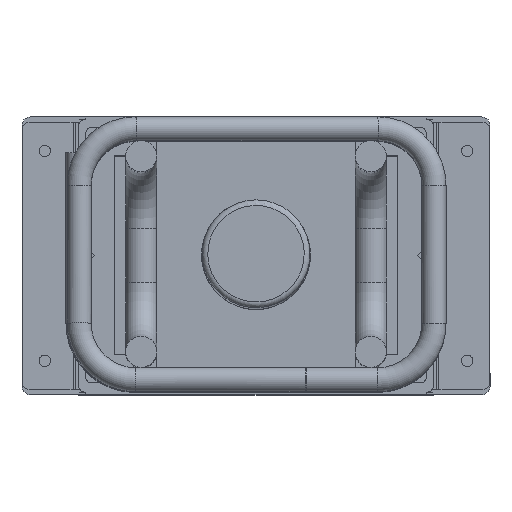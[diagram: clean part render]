
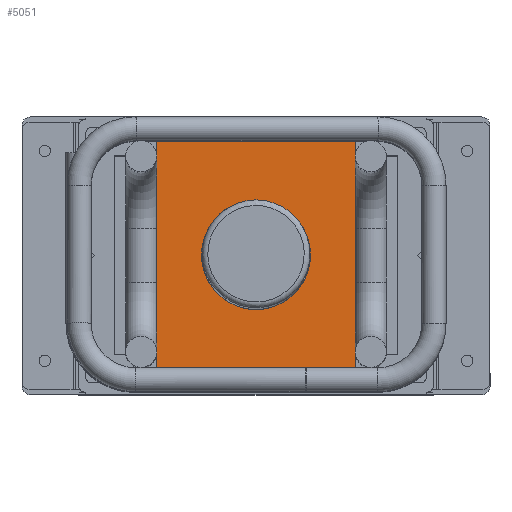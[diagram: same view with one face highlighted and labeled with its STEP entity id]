
A CAD part, top view. The second image highlights one B-rep face of the part: STEP entity #5051.
In plain terms, the highlighted planar face has unit normal (0, 0, 1).
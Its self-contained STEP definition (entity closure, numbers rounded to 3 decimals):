
#21=FACE_BOUND('',#570,.T.);
#69=PLANE('',#5480);
#294=FACE_OUTER_BOUND('',#569,.T.);
#569=EDGE_LOOP('',(#3486,#3487,#3488,#3489,#3490,#3491,#3492,#3493));
#570=EDGE_LOOP('',(#3494));
#938=CIRCLE('',#5481,19.25);
#1147=LINE('',#7774,#1577);
#1148=LINE('',#7776,#1578);
#1149=LINE('',#7778,#1579);
#1150=LINE('',#7780,#1580);
#1151=LINE('',#7782,#1581);
#1152=LINE('',#7784,#1582);
#1153=LINE('',#7786,#1583);
#1154=LINE('',#7787,#1584);
#1577=VECTOR('',#6276,10.);
#1578=VECTOR('',#6277,10.);
#1579=VECTOR('',#6278,10.);
#1580=VECTOR('',#6279,10.);
#1581=VECTOR('',#6280,10.);
#1582=VECTOR('',#6281,10.);
#1583=VECTOR('',#6282,10.);
#1584=VECTOR('',#6283,10.);
#2081=VERTEX_POINT('',#7772);
#2082=VERTEX_POINT('',#7773);
#2083=VERTEX_POINT('',#7775);
#2084=VERTEX_POINT('',#7777);
#2085=VERTEX_POINT('',#7779);
#2086=VERTEX_POINT('',#7781);
#2087=VERTEX_POINT('',#7783);
#2088=VERTEX_POINT('',#7785);
#2089=VERTEX_POINT('',#7788);
#2595=EDGE_CURVE('',#2081,#2082,#1147,.T.);
#2596=EDGE_CURVE('',#2082,#2083,#1148,.T.);
#2597=EDGE_CURVE('',#2083,#2084,#1149,.T.);
#2598=EDGE_CURVE('',#2084,#2085,#1150,.T.);
#2599=EDGE_CURVE('',#2085,#2086,#1151,.T.);
#2600=EDGE_CURVE('',#2086,#2087,#1152,.T.);
#2601=EDGE_CURVE('',#2087,#2088,#1153,.T.);
#2602=EDGE_CURVE('',#2088,#2081,#1154,.T.);
#2603=EDGE_CURVE('',#2089,#2089,#938,.T.);
#3486=ORIENTED_EDGE('',*,*,#2595,.T.);
#3487=ORIENTED_EDGE('',*,*,#2596,.T.);
#3488=ORIENTED_EDGE('',*,*,#2597,.T.);
#3489=ORIENTED_EDGE('',*,*,#2598,.T.);
#3490=ORIENTED_EDGE('',*,*,#2599,.T.);
#3491=ORIENTED_EDGE('',*,*,#2600,.T.);
#3492=ORIENTED_EDGE('',*,*,#2601,.T.);
#3493=ORIENTED_EDGE('',*,*,#2602,.T.);
#3494=ORIENTED_EDGE('',*,*,#2603,.T.);
#5051=ADVANCED_FACE('',(#294,#21),#69,.T.);
#5480=AXIS2_PLACEMENT_3D('',#7771,#6274,#6275);
#5481=AXIS2_PLACEMENT_3D('',#7789,#6284,#6285);
#6274=DIRECTION('center_axis',(0.,0.,
1.));
#6275=DIRECTION('ref_axis',(1.,0.,0.));
#6276=DIRECTION('',(1.,0.,0.));
#6277=DIRECTION('',(0.,1.,0.));
#6278=DIRECTION('',(0.,1.,0.));
#6279=DIRECTION('',(0.,1.,0.));
#6280=DIRECTION('',(-1.,0.,0.));
#6281=DIRECTION('',(0.,-1.,0.));
#6282=DIRECTION('',(0.,-1.,0.));
#6283=DIRECTION('',(0.,-1.,0.));
#6284=DIRECTION('center_axis',(0.,0.,
-1.));
#6285=DIRECTION('ref_axis',(-1.,0.,0.));
#7771=CARTESIAN_POINT('Origin',(0.,0.,
150.));
#7772=CARTESIAN_POINT('',(-35.,-40.,150.));
#7773=CARTESIAN_POINT('',(35.,-40.,150.));
#7774=CARTESIAN_POINT('',(-35.,-40.,150.));
#7775=CARTESIAN_POINT('',(35.,-20.397,150.));
#7776=CARTESIAN_POINT('',(35.,-40.,150.));
#7777=CARTESIAN_POINT('',(35.,20.397,150.));
#7778=CARTESIAN_POINT('',(35.,-40.,150.));
#7779=CARTESIAN_POINT('',(35.,40.,150.));
#7780=CARTESIAN_POINT('',(35.,-40.,150.));
#7781=CARTESIAN_POINT('',(-35.,40.,150.));
#7782=CARTESIAN_POINT('',(35.,40.,150.));
#7783=CARTESIAN_POINT('',(-35.,20.397,150.));
#7784=CARTESIAN_POINT('',(-35.,40.,150.));
#7785=CARTESIAN_POINT('',(-35.,-20.397,150.));
#7786=CARTESIAN_POINT('',(-35.,40.,150.));
#7787=CARTESIAN_POINT('',(-35.,40.,150.));
#7788=CARTESIAN_POINT('',(19.25,0.,150.));
#7789=CARTESIAN_POINT('Origin',(0.,0.,
150.));
